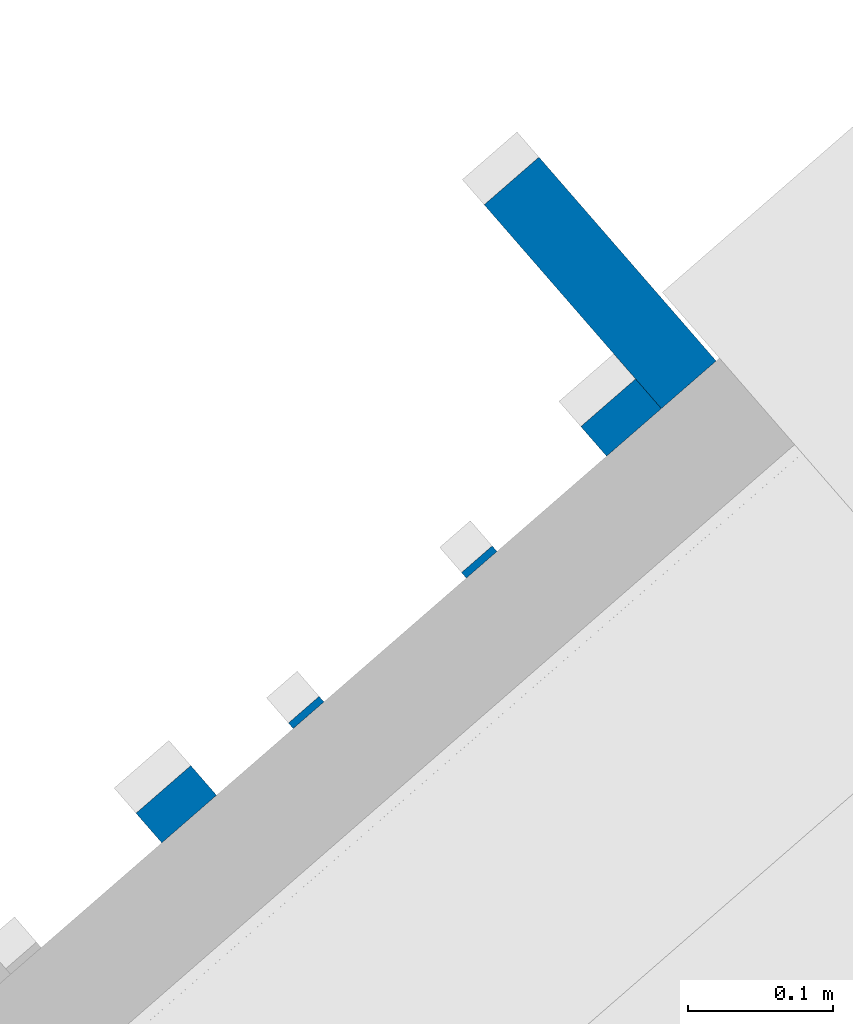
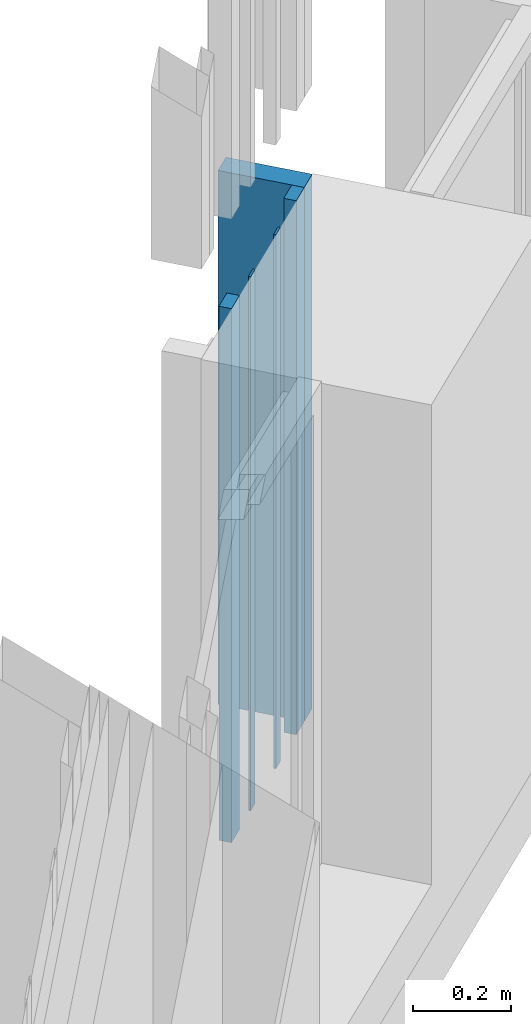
# One storey, part 249 of 390: 5 walls.
"""IFC2X3 building model written with IfcOpenShell, lengths in millimetres."""

from ifc_helpers import new_model, entity, si_unit, converted_unit, derived_unit, money_unit, direction, frame, origin_with_axes, place, context, subcontext, project, spatial, faceted_brep, material, type_object, element, save


model = new_model("IFC2X3")

# Units and contexts
model_context = context("Model", 3, precision=1e-05, world=origin_with_axes(), true_north=direction((0.0, 1.0)))
body_context = subcontext(model_context, "Body", "Model", "MODEL_VIEW")
ifc_project = project(units=[si_unit("LENGTHUNIT", "METRE", prefix="MILLI"), si_unit("AREAUNIT", "SQUARE_METRE"), si_unit("VOLUMEUNIT", "CUBIC_METRE"), converted_unit("PLANEANGLEUNIT", "DEGREE", entity("IfcPlaneAngleMeasure", 0.0174532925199), si_unit("PLANEANGLEUNIT", "RADIAN"), dimensions=[0, 0, 0, 0, 0, 0, 0]), si_unit("SOLIDANGLEUNIT", "STERADIAN"), money_unit("EUR"), converted_unit("TIMEUNIT", "Year", entity("IfcTimeMeasure", 31556926.0), si_unit("TIMEUNIT", "SECOND"), dimensions=[0, 0, 1, 0, 0, 0, 0]), si_unit("MASSUNIT", "GRAM", prefix="KILO"), si_unit("THERMODYNAMICTEMPERATUREUNIT", "DEGREE_CELSIUS"), si_unit("LUMINOUSINTENSITYUNIT", "LUMEN"), si_unit("ENERGYUNIT", "JOULE", prefix="MEGA"), derived_unit("THERMALCONDUCTANCEUNIT", [(si_unit("POWERUNIT", "WATT"), 1), (si_unit("LENGTHUNIT", "METRE"), -1), (si_unit("THERMODYNAMICTEMPERATUREUNIT", "KELVIN"), -1)]), derived_unit("SPECIFICHEATCAPACITYUNIT", [(si_unit("ENERGYUNIT", "JOULE"), 1), (si_unit("MASSUNIT", "GRAM", prefix="KILO"), -1), (si_unit("THERMODYNAMICTEMPERATUREUNIT", "KELVIN"), -1)]), derived_unit("MASSDENSITYUNIT", [(si_unit("MASSUNIT", "GRAM", prefix="KILO"), 1), (si_unit("VOLUMEUNIT", "CUBIC_METRE"), -1)])], contexts=[model_context])

# Site, building, storey
site_placement = place(None, origin_with_axes())
site = spatial("IfcSite", under=ifc_project, at=site_placement, Name="Site", CompositionType="ELEMENT")
building_placement = place(site_placement, origin_with_axes())
building = spatial("IfcBuilding", under=site, at=building_placement, Name="Building", CompositionType="ELEMENT")
storey_placement = place(building_placement, origin_with_axes())
storey = spatial("IfcBuildingStorey", under=building, at=storey_placement, Name="1 korrus", CompositionType="ELEMENT", Elevation=0.0)

# Walls
ifc_material = material(Name="Site specified")
wall_type = type_object("IfcWallType", Name="Puitfassaadi ribistik", PredefinedType="NOTDEFINED")
wall_1_placement = place(storey_placement, frame((144497.959585, 95601.5252562, 0.0), z_axis=(0.0, 0.0, 1.0), x_axis=(0.754709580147, 0.656059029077, 0.0)))
element("IfcWall", 1, at=wall_1_placement, inside=storey, type_object=wall_type, material=ifc_material, Name="Site specified", context=body_context, shape_type="Brep", body=[
    faceted_brep([(-14.0, 14.0, 1330.0), (-14.0, 8.97742478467, 1330.0), (14.0000000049, 8.97735847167, 1330.0), (14.0, 14.0, 1330.0), (-14.0, 14.0, 0.0), (-14.0, 8.97534622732, 0.0), (14.0, 8.97528283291, 0.0), (14.0, 14.0, 0.0)], [[[0, 1, 2, 3]], [[4, 5, 1, 0]], [[5, 6, 2, 1]], [[3, 2, 6, 7]], [[0, 3, 7, 4]], [[7, 6, 5, 4]]]),
])
wall_2_placement = place(storey_placement, frame((144289.235478, 95434.6593008, 0.0), z_axis=(0.0, 0.0, 1.0), x_axis=(0.754709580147, 0.656059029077, 0.0)))
element("IfcWall", 2, at=wall_2_placement, inside=storey, type_object=wall_type, material=ifc_material, Name="Site specified", context=body_context, shape_type="Brep", body=[
    faceted_brep([(-25.0, 25.0, 1330.0), (-25.0, -2.02191682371, 1330.0), (25.000000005, -2.02203523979, 1330.0), (25.0, 25.0, 1330.0), (-25.0, 25.0, 0.0), (-25.0, -2.02402435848, 0.0), (25.0, -2.02413756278, 0.0), (25.0, 25.0, 0.0)], [[[0, 1, 2, 3]], [[4, 5, 1, 0]], [[5, 6, 2, 1]], [[3, 2, 6, 7]], [[0, 3, 7, 4]], [[7, 6, 5, 4]]]),
])
wall_3_placement = place(storey_placement, frame((144595.647568, 95701.0192666, 0.0), z_axis=(0.0, 0.0, 1.0), x_axis=(0.754709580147, 0.656059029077, 0.0)))
element("IfcWall", 3, at=wall_3_placement, inside=storey, type_object=wall_type, material=ifc_material, Name="Site specified", context=body_context, shape_type="Brep", body=[
    faceted_brep([(-25.0, 25.0, 1330.0), (-25.0, -2.02287836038, 1330.0), (25.0000000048, -2.02299677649, 1330.0), (25.0, 25.0, 1330.0), (-25.0, 25.0, 0.0), (-25.0, -2.02494357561, 0.0), (25.0, -2.02505677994, 0.0), (25.0, 25.0, 0.0)], [[[0, 1, 2, 3]], [[4, 5, 1, 0]], [[5, 6, 2, 1]], [[3, 2, 6, 7]], [[0, 3, 7, 4]], [[7, 6, 5, 4]]]),
])
wall_4_placement = place(storey_placement, frame((144378.715472, 95497.8679296, 0.0), z_axis=(0.0, 0.0, 1.0), x_axis=(0.754709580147, 0.656059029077, 0.0)))
element("IfcWall", 4, at=wall_4_placement, inside=storey, type_object=wall_type, material=ifc_material, Name="Site specified", context=body_context, shape_type="Brep", body=[
    faceted_brep([(-14.0, 14.0, 1330.0), (-14.0, 8.97779897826, 1330.0), (14.0000000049, 8.97773266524, 1330.0), (14.0, 14.0, 1330.0), (-14.0, 14.0, 0.0), (-14.0, 8.97570395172, 0.0), (14.0, 8.9756405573, 0.0), (14.0, 14.0, 0.0)], [[[0, 1, 2, 3]], [[4, 5, 1, 0]], [[5, 6, 2, 1]], [[3, 2, 6, 7]], [[0, 3, 7, 4]], [[7, 6, 5, 4]]]),
])
wall_5_placement = place(storey_placement, frame((144581.226354, 95793.8216297, 0.0), z_axis=(0.0, 0.0, 1.0), x_axis=(0.754709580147, 0.656059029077, 0.0)))
element("IfcWall", 5, at=wall_5_placement, inside=storey, type_object=wall_type, material=ifc_material, Name="Site specified", context=body_context, shape_type="Brep", body=[
    faceted_brep([(-25.0, 104.5, 1330.0), (-25.0, -81.5229967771, 1330.0), (25.0000000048, -81.5231151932, 1330.0), (25.0, 104.5, 1330.0), (-25.0, 104.5, 0.0), (-25.0, -81.5250567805, 0.0), (25.0, -81.5251699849, 0.0), (25.0, 104.5, 0.0)], [[[0, 1, 2, 3]], [[4, 5, 1, 0]], [[5, 6, 2, 1]], [[3, 2, 6, 7]], [[0, 3, 7, 4]], [[7, 6, 5, 4]]]),
])

save(model, "model.ifc")
